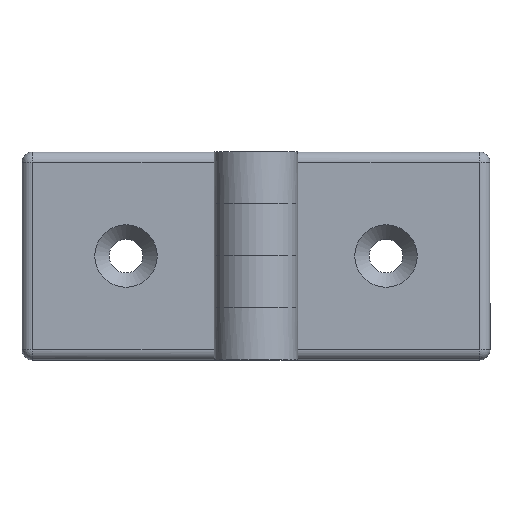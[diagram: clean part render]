
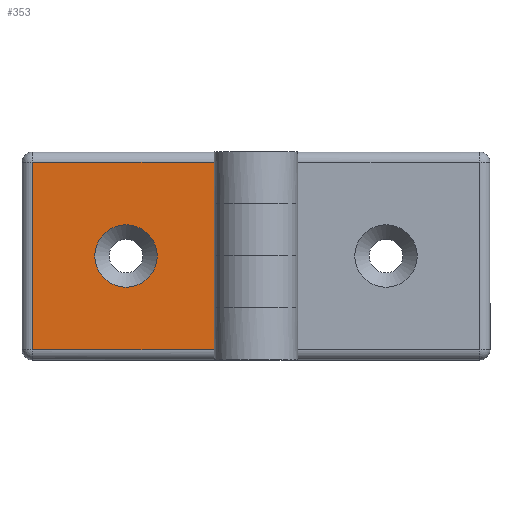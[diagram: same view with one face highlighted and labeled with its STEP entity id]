
A CAD part, top view. The second image highlights one B-rep face of the part: STEP entity #353.
In plain terms, the highlighted planar face has unit normal (0, 0, 1).
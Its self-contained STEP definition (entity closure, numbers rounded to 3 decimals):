
#162=CARTESIAN_POINT('',(13.182,9.824,8.0));
#163=VERTEX_POINT('',#162);
#181=CARTESIAN_POINT('',(-21.818,9.824,8.0));
#182=VERTEX_POINT('',#181);
#190=CARTESIAN_POINT('',(-21.818,9.824,8.0));
#191=DIRECTION('',(1.0,0.0,0.0));
#192=VECTOR('',#191,35.);
#193=LINE('',#190,#192);
#194=EDGE_CURVE('',#182,#163,#193,.T.);
#262=CARTESIAN_POINT('',(13.182,1.824,8.0));
#263=VERTEX_POINT('',#262);
#264=CARTESIAN_POINT('',(13.182,1.824,8.0));
#265=DIRECTION('',(0.0,1.0,0.0));
#266=VECTOR('',#265,8.);
#267=LINE('',#264,#266);
#268=EDGE_CURVE('',#263,#163,#267,.T.);
#295=CARTESIAN_POINT('',(-3.818,-8.176,8.0));
#296=DIRECTION('',(0.0,0.0,1.0));
#297=DIRECTION('',(1.0,0.0,0.0));
#298=AXIS2_PLACEMENT_3D('',#295,#296,#297);
#299=PLANE('',#298);
#300=ORIENTED_EDGE('',*,*,#194,.F.);
#301=CARTESIAN_POINT('',(-21.818,-26.176,8.0));
#302=VERTEX_POINT('',#301);
#303=CARTESIAN_POINT('',(-21.818,-26.176,8.0));
#304=DIRECTION('',(0.0,1.0,0.0));
#305=VECTOR('',#304,36.0);
#306=LINE('',#303,#305);
#307=EDGE_CURVE('',#302,#182,#306,.T.);
#308=ORIENTED_EDGE('',*,*,#307,.F.);
#309=CARTESIAN_POINT('',(13.182,-26.176,8.0));
#310=VERTEX_POINT('',#309);
#311=CARTESIAN_POINT('',(13.182,-26.176,8.0));
#312=DIRECTION('',(-1.0,0.0,0.0));
#313=VECTOR('',#312,35.);
#314=LINE('',#311,#313);
#315=EDGE_CURVE('',#310,#302,#314,.T.);
#316=ORIENTED_EDGE('',*,*,#315,.F.);
#317=CARTESIAN_POINT('',(13.182,-18.176,8.0));
#318=VERTEX_POINT('',#317);
#319=CARTESIAN_POINT('',(13.182,-26.176,8.0));
#320=DIRECTION('',(0.0,1.0,0.0));
#321=VECTOR('',#320,8.0);
#322=LINE('',#319,#321);
#323=EDGE_CURVE('',#310,#318,#322,.T.);
#324=ORIENTED_EDGE('',*,*,#323,.T.);
#325=CARTESIAN_POINT('',(13.182,-8.176,8.0));
#326=VERTEX_POINT('',#325);
#327=CARTESIAN_POINT('',(13.182,-18.176,8.0));
#328=DIRECTION('',(0.0,1.0,0.0));
#329=VECTOR('',#328,10.);
#330=LINE('',#327,#329);
#331=EDGE_CURVE('',#318,#326,#330,.T.);
#332=ORIENTED_EDGE('',*,*,#331,.T.);
#333=CARTESIAN_POINT('',(13.182,-8.176,8.0));
#334=DIRECTION('',(0.0,1.0,0.0));
#335=VECTOR('',#334,10.);
#336=LINE('',#333,#335);
#337=EDGE_CURVE('',#326,#263,#336,.T.);
#338=ORIENTED_EDGE('',*,*,#337,.T.);
#339=ORIENTED_EDGE('',*,*,#268,.T.);
#340=EDGE_LOOP('',(#300,#308,#316,#324,#332,#338,#339));
#341=FACE_OUTER_BOUND('',#340,.T.);
#342=CARTESIAN_POINT('',(2.182,-8.176,8.0));
#343=VERTEX_POINT('',#342);
#344=CARTESIAN_POINT('',(-3.818,-8.176,8.0));
#345=DIRECTION('',(0.0,0.0,-1.0));
#346=DIRECTION('',(1.0,0.0,0.0));
#347=AXIS2_PLACEMENT_3D('',#344,#345,#346);
#348=CIRCLE('',#347,6.);
#349=EDGE_CURVE('',#343,#343,#348,.T.);
#350=ORIENTED_EDGE('',*,*,#349,.T.);
#351=EDGE_LOOP('',(#350));
#352=FACE_BOUND('',#351,.T.);
#353=ADVANCED_FACE('',(#341,#352),#299,.T.);
